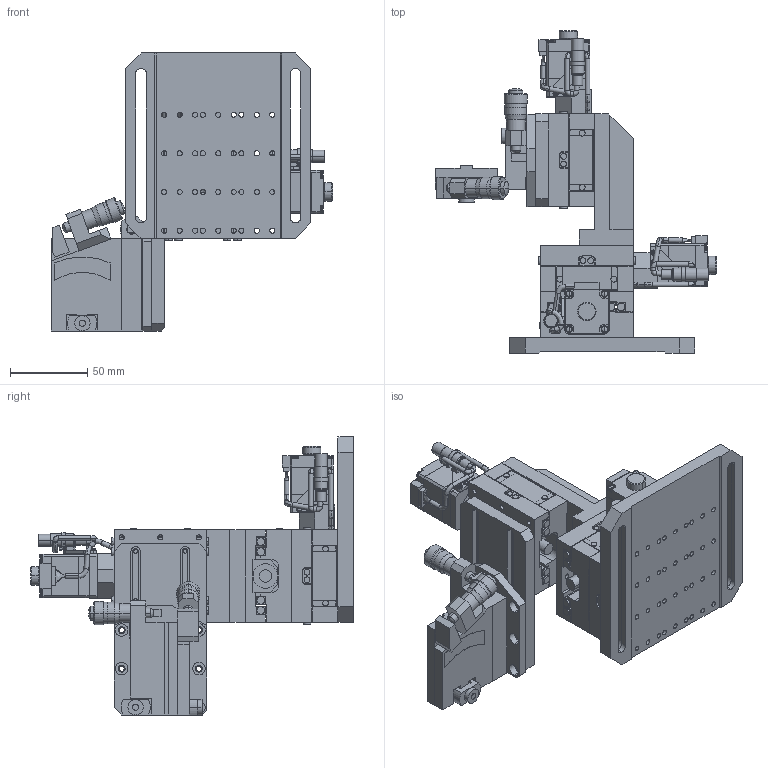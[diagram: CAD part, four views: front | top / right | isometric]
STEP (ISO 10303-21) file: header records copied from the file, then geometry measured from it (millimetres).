
FILE_DESCRIPTION (( 'STEP AP214' ), '1' );
FILE_NAME ('ES3001WA-R.STEP', '2017-03-10T08:18:19', ( '' ), ( '' ), 'SwSTEP 2.0', 'SolidWorks 2017', '' );
FILE_SCHEMA (( 'AUTOMOTIVE_DESIGN' ));
Length unit declared in the file: millimetre
Products named in the file (19): Copy of KXC06020-G-1^Copy of KXC06020-G_000-OST-ES3001WA-R; Copy of A24-1^000-OST-ES3001WA-R; Copy of B50-60RN-4^Copy of B50-60RN_000-OST-ES3001WA-R; ES3001WA-R; Copy of B50-60RN-5^Copy of B50-60RN_000-OST-ES3001WA-R; Copy of B50-60RN-3^Copy of B50-60RN_000-OST-ES3001WA-R; Copy of B50-60RN-2^Copy of B50-60RN_000-OST-ES3001WA-R; Copy of B50-60RN^000-OST-ES3001WA-R; Copy of B50-60RN-1^Copy of B50-60RN_000-OST-ES3001WA-R; Copy of E02-2^000-OST-ES3001WA-R; Copy (3) of KXC06020-G^000-OST-ES3001WA-R; Copy of KXC06020-G-2^Copy (3) of KXC06020-G_000-OST-ES3001WA-R; Copy of KXC06020-G-1^Copy (3) of KXC06020-G_000-OST-ES3001WA-R; Copy of A47-112^000-OST-ES3001WA-R; Copy (2) of KXC06020-G^000-OST-ES3001WA-R; Copy of KXC06020-G-2^Copy (2) of KXC06020-G_000-OST-ES3001WA-R; Copy of KXC06020-G-1^Copy (2) of KXC06020-G_000-OST-ES3001WA-R; Copy of KXC06020-G^000-OST-ES3001WA-R; Copy of KXC06020-G-2^Copy of KXC06020-G_000-OST-ES3001WA-R
Assembly tree (18 placements, depth 3):
  ES3001WA-R
    Copy of A24-1^000-OST-ES3001WA-R
    Copy of KXC06020-G^000-OST-ES3001WA-R
      Copy of KXC06020-G-1^Copy of KXC06020-G_000-OST-ES3001WA-R
      Copy of KXC06020-G-2^Copy of KXC06020-G_000-OST-ES3001WA-R
    Copy (2) of KXC06020-G^000-OST-ES3001WA-R
      Copy of KXC06020-G-1^Copy (2) of KXC06020-G_000-OST-ES3001WA-R
      Copy of KXC06020-G-2^Copy (2) of KXC06020-G_000-OST-ES3001WA-R
    Copy of A47-112^000-OST-ES3001WA-R
    Copy (3) of KXC06020-G^000-OST-ES3001WA-R
      Copy of KXC06020-G-1^Copy (3) of KXC06020-G_000-OST-ES3001WA-R
      Copy of KXC06020-G-2^Copy (3) of KXC06020-G_000-OST-ES3001WA-R
    Copy of E02-2^000-OST-ES3001WA-R
    Copy of B50-60RN^000-OST-ES3001WA-R
      Copy of B50-60RN-1^Copy of B50-60RN_000-OST-ES3001WA-R
      Copy of B50-60RN-2^Copy of B50-60RN_000-OST-ES3001WA-R
      Copy of B50-60RN-3^Copy of B50-60RN_000-OST-ES3001WA-R
      Copy of B50-60RN-5^Copy of B50-60RN_000-OST-ES3001WA-R
      Copy of B50-60RN-4^Copy of B50-60RN_000-OST-ES3001WA-R
Bounding box: 182 x 209 x 180 mm (x, y, z)
Volume: 717793 mm3; surface area: 244338 mm2
Topology: 14 solids, 14 shells, 2183 faces, 5941 edges, 3806 vertices
Faces by surface type: plane 1185, cylinder 724, bspline 164, cone 110
Entity records: 76546 total; most frequent: CARTESIAN_POINT 19916, ORIENTED_EDGE 11728, DIRECTION 11694, EDGE_CURVE 5864, AXIS2_PLACEMENT_3D 3950, VERTEX_POINT 3800, VECTOR 3794, LINE 3794
